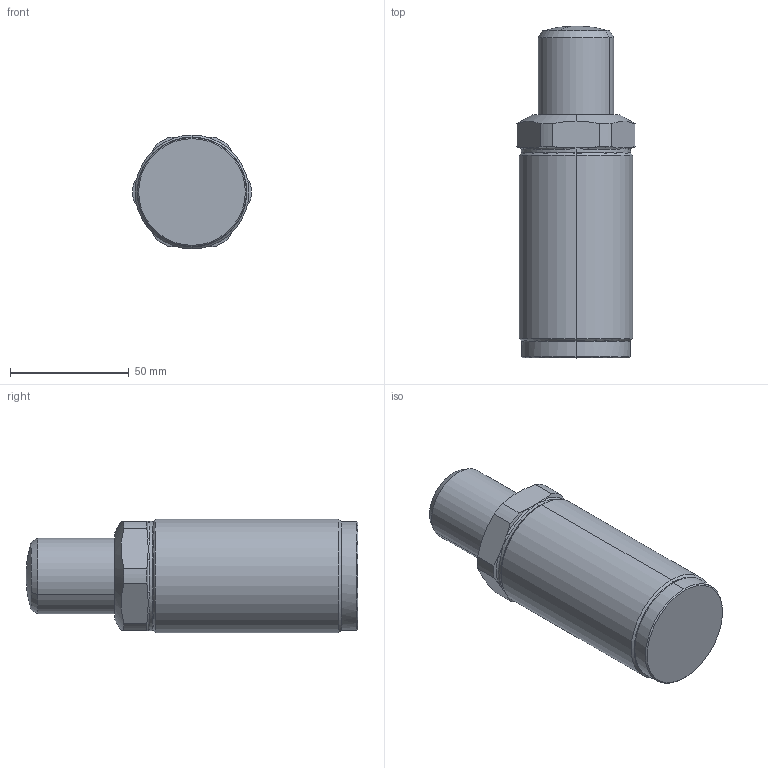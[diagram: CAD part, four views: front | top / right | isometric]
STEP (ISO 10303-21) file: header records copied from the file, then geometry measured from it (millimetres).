
FILE_DESCRIPTION((' '),'2;1');
FILE_NAME( 'CMC20-32R.x_t.stp', '2024-08-27T13:58:40', (' '), ('--- Datakit www.datakit.com---'), ' Datakit CrossCadWare V2024.1 Dec 21 2023', 'Mastercam 2025', ' ');
FILE_SCHEMA(('AUTOMOTIVE_DESIGN { 1 0 10303 214 1 1 1 1 }'));
Length unit declared in the file: millimetre
Products named in the file (1): CMC20-32R
Bounding box: 49.96 x 140 x 48 mm (x, y, z)
Volume: 185856.9 mm3; surface area: 26957.9 mm2
Topology: 2 solids, 2 shells, 66 faces, 171 edges, 96 vertices
Faces by surface type: cylinder 16, cone 16, bspline 12, plane 10, torus 10, sphere 2
Entity records: 3989 total; most frequent: CARTESIAN_POINT 2476, ORIENTED_EDGE 314, DIRECTION 304, EDGE_CURVE 157, AXIS2_PLACEMENT_3D 136, VERTEX_POINT 96, CIRCLE 81, EDGE_LOOP 67
